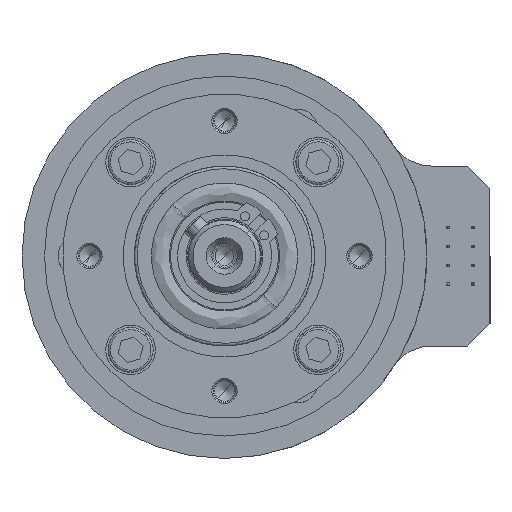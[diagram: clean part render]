
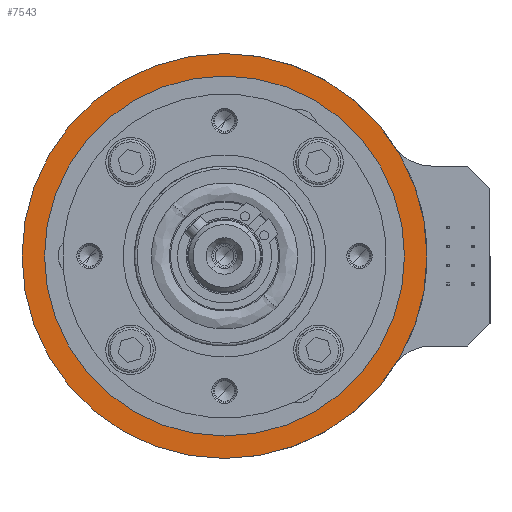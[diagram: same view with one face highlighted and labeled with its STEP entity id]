
A CAD part, left-side view. The second image highlights one B-rep face of the part: STEP entity #7543.
In plain terms, the highlighted planar face has unit normal (-1, 0, 0).
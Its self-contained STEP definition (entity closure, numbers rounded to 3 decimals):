
#430 = DIRECTION ( 'NONE',  ( -1., 0., 0. ) ) ;
#859 = CARTESIAN_POINT ( 'NONE',  ( 0., 0., 17.5 ) ) ;
#1101 = AXIS2_PLACEMENT_3D ( 'NONE', #20166, #5308, #3353 ) ;
#1886 = DIRECTION ( 'NONE',  ( -1., 0., 0. ) ) ;
#1993 = CARTESIAN_POINT ( 'NONE',  ( 0., 32.5, 0. ) ) ;
#2587 = VERTEX_POINT ( 'NONE', #28587 ) ;
#3274 = EDGE_LOOP ( 'NONE', ( #28324, #30973 ) ) ;
#3353 = DIRECTION ( 'NONE',  ( 0., 0., -1. ) ) ;
#4281 = VERTEX_POINT ( 'NONE', #26098 ) ;
#4346 = DIRECTION ( 'NONE',  ( 0., 0., 1. ) ) ;
#5181 = CARTESIAN_POINT ( 'NONE',  ( 0., -16.25, 30.246 ) ) ;
#5243 = EDGE_LOOP ( 'NONE', ( #5840, #14695 ) ) ;
#5308 = DIRECTION ( 'NONE',  ( -1., 0., 0. ) ) ;
#5443 = AXIS2_PLACEMENT_3D ( 'NONE', #14924, #17308, #11964 ) ;
#5766 = EDGE_CURVE ( 'NONE', #2587, #16695, #25873, .T. ) ;
#5840 = ORIENTED_EDGE ( 'NONE', *, *, #11385, .F. ) ;
#6154 = CIRCLE ( 'NONE', #25339, 45. ) ;
#6251 = DIRECTION ( 'NONE',  ( -1., 0., 0. ) ) ;
#6587 = DIRECTION ( 'NONE',  ( -1., 0., 0. ) ) ;
#6622 = VERTEX_POINT ( 'NONE', #26440 ) ;
#7311 = CIRCLE ( 'NONE', #13169, 2.1 ) ;
#7543 = ADVANCED_FACE ( 'NONE', ( #19463, #10154, #28719, #26036, #31085 ), #9471, .F. ) ;
#7588 = EDGE_CURVE ( 'NONE', #17835, #20273, #19077, .T. ) ;
#7693 = AXIS2_PLACEMENT_3D ( 'NONE', #26033, #16224, #26473 ) ;
#8225 = AXIS2_PLACEMENT_3D ( 'NONE', #11144, #6251, #8513 ) ;
#8513 = DIRECTION ( 'NONE',  ( 0., 0., 1. ) ) ;
#8732 = DIRECTION ( 'NONE',  ( 1., 0., 0. ) ) ;
#9101 = DIRECTION ( 'NONE',  ( -1., 0., 0. ) ) ;
#9332 = CARTESIAN_POINT ( 'NONE',  ( 0., -16.25, 28.146 ) ) ;
#9471 = PLANE ( 'NONE',  #5443 ) ;
#9505 = EDGE_CURVE ( 'NONE', #20273, #17835, #7311, .T. ) ;
#9543 = CARTESIAN_POINT ( 'NONE',  ( 0., 32.5, 0. ) ) ;
#9720 = CARTESIAN_POINT ( 'NONE',  ( 0., -16.25, -26.046 ) ) ;
#10154 = FACE_BOUND ( 'NONE', #3274, .T. ) ;
#10604 = AXIS2_PLACEMENT_3D ( 'NONE', #17103, #29509, #14694 ) ;
#10660 = CARTESIAN_POINT ( 'NONE',  ( 0., -16.25, 26.046 ) ) ;
#10817 = VERTEX_POINT ( 'NONE', #15135 ) ;
#11048 = CIRCLE ( 'NONE', #19223, 2.1 ) ;
#11144 = CARTESIAN_POINT ( 'NONE',  ( 0., -16.25, -28.146 ) ) ;
#11385 = EDGE_CURVE ( 'NONE', #27727, #28267, #13774, .T. ) ;
#11818 = DIRECTION ( 'NONE',  ( 0., 0., 1. ) ) ;
#11964 = DIRECTION ( 'NONE',  ( 0., 0., -1. ) ) ;
#12123 = VERTEX_POINT ( 'NONE', #859 ) ;
#13169 = AXIS2_PLACEMENT_3D ( 'NONE', #9332, #9101, #26793 ) ;
#13774 = CIRCLE ( 'NONE', #19505, 2.1 ) ;
#13804 = AXIS2_PLACEMENT_3D ( 'NONE', #16059, #8732, #30625 ) ;
#14694 = DIRECTION ( 'NONE',  ( 0., 0., 1. ) ) ;
#14695 = ORIENTED_EDGE ( 'NONE', *, *, #21245, .F. ) ;
#14924 = CARTESIAN_POINT ( 'NONE',  ( 0., 0., 0. ) ) ;
#15116 = EDGE_CURVE ( 'NONE', #16695, #2587, #20679, .T. ) ;
#15135 = CARTESIAN_POINT ( 'NONE',  ( 0., 0., -17.5 ) ) ;
#15169 = ORIENTED_EDGE ( 'NONE', *, *, #29771, .F. ) ;
#16059 = CARTESIAN_POINT ( 'NONE',  ( 0., 0., 0. ) ) ;
#16224 = DIRECTION ( 'NONE',  ( -1., 0., 0. ) ) ;
#16695 = VERTEX_POINT ( 'NONE', #9720 ) ;
#17103 = CARTESIAN_POINT ( 'NONE',  ( 0., -16.25, 28.146 ) ) ;
#17280 = EDGE_CURVE ( 'NONE', #6622, #4281, #6154, .T. ) ;
#17308 = DIRECTION ( 'NONE',  ( 1., 0., 0. ) ) ;
#17413 = CIRCLE ( 'NONE', #1101, 17.5 ) ;
#17835 = VERTEX_POINT ( 'NONE', #10660 ) ;
#18670 = EDGE_LOOP ( 'NONE', ( #27056, #29103 ) ) ;
#18964 = EDGE_CURVE ( 'NONE', #10817, #12123, #17413, .T. ) ;
#19077 = CIRCLE ( 'NONE', #10604, 2.1 ) ;
#19223 = AXIS2_PLACEMENT_3D ( 'NONE', #9543, #1886, #4346 ) ;
#19463 = FACE_BOUND ( 'NONE', #5243, .T. ) ;
#19505 = AXIS2_PLACEMENT_3D ( 'NONE', #1993, #6587, #11818 ) ;
#19604 = AXIS2_PLACEMENT_3D ( 'NONE', #27701, #430, #19937 ) ;
#19789 = CIRCLE ( 'NONE', #13804, 45. ) ;
#19937 = DIRECTION ( 'NONE',  ( 0., 0., -1. ) ) ;
#20166 = CARTESIAN_POINT ( 'NONE',  ( 0., 0., 0. ) ) ;
#20214 = ORIENTED_EDGE ( 'NONE', *, *, #20236, .F. ) ;
#20236 = EDGE_CURVE ( 'NONE', #12123, #10817, #29711, .T. ) ;
#20273 = VERTEX_POINT ( 'NONE', #5181 ) ;
#20679 = CIRCLE ( 'NONE', #8225, 2.1 ) ;
#21245 = EDGE_CURVE ( 'NONE', #28267, #27727, #11048, .T. ) ;
#22816 = CARTESIAN_POINT ( 'NONE',  ( 0., 32.5, 2.1 ) ) ;
#23169 = EDGE_LOOP ( 'NONE', ( #26009, #15169 ) ) ;
#23329 = DIRECTION ( 'NONE',  ( 1., 0., 0. ) ) ;
#24779 = EDGE_LOOP ( 'NONE', ( #25126, #20214 ) ) ;
#25126 = ORIENTED_EDGE ( 'NONE', *, *, #18964, .F. ) ;
#25339 = AXIS2_PLACEMENT_3D ( 'NONE', #25465, #23329, #30771 ) ;
#25465 = CARTESIAN_POINT ( 'NONE',  ( 0., 0., 0. ) ) ;
#25873 = CIRCLE ( 'NONE', #7693, 2.1 ) ;
#26009 = ORIENTED_EDGE ( 'NONE', *, *, #17280, .F. ) ;
#26033 = CARTESIAN_POINT ( 'NONE',  ( 0., -16.25, -28.146 ) ) ;
#26036 = FACE_BOUND ( 'NONE', #24779, .T. ) ;
#26098 = CARTESIAN_POINT ( 'NONE',  ( 0., 0., 45. ) ) ;
#26440 = CARTESIAN_POINT ( 'NONE',  ( 0., 0., -45. ) ) ;
#26473 = DIRECTION ( 'NONE',  ( 0., 0., 1. ) ) ;
#26793 = DIRECTION ( 'NONE',  ( 0., 0., 1. ) ) ;
#27056 = ORIENTED_EDGE ( 'NONE', *, *, #9505, .F. ) ;
#27701 = CARTESIAN_POINT ( 'NONE',  ( 0., 0., 0. ) ) ;
#27727 = VERTEX_POINT ( 'NONE', #22816 ) ;
#28039 = CARTESIAN_POINT ( 'NONE',  ( 0., 32.5, -2.1 ) ) ;
#28267 = VERTEX_POINT ( 'NONE', #28039 ) ;
#28324 = ORIENTED_EDGE ( 'NONE', *, *, #15116, .F. ) ;
#28587 = CARTESIAN_POINT ( 'NONE',  ( 0., -16.25, -30.246 ) ) ;
#28719 = FACE_BOUND ( 'NONE', #18670, .T. ) ;
#29103 = ORIENTED_EDGE ( 'NONE', *, *, #7588, .F. ) ;
#29509 = DIRECTION ( 'NONE',  ( -1., 0., 0. ) ) ;
#29711 = CIRCLE ( 'NONE', #19604, 17.5 ) ;
#29771 = EDGE_CURVE ( 'NONE', #4281, #6622, #19789, .T. ) ;
#30625 = DIRECTION ( 'NONE',  ( 0., 0., -1. ) ) ;
#30771 = DIRECTION ( 'NONE',  ( 0., 0., -1. ) ) ;
#30973 = ORIENTED_EDGE ( 'NONE', *, *, #5766, .F. ) ;
#31085 = FACE_OUTER_BOUND ( 'NONE', #23169, .T. ) ;
